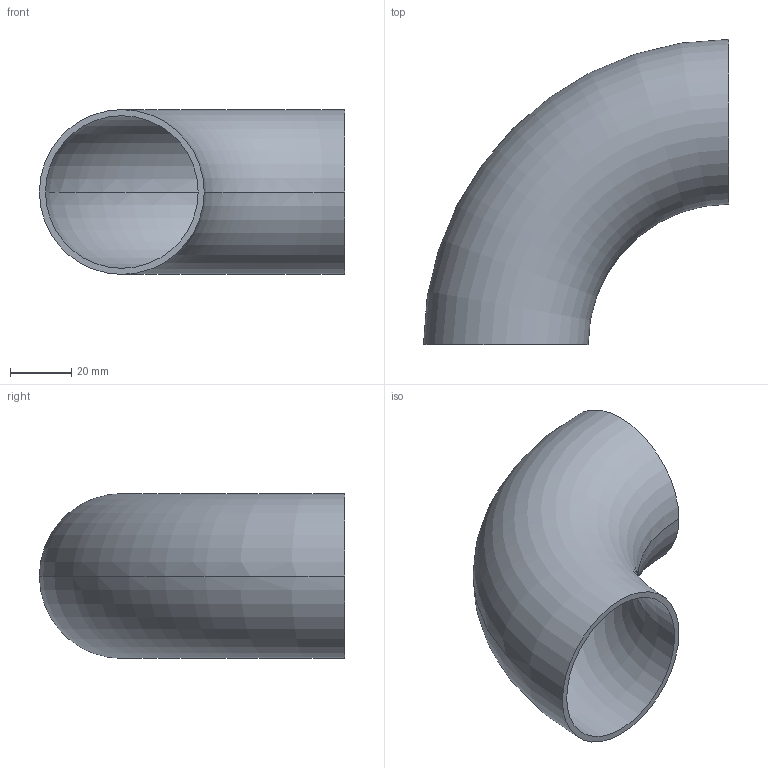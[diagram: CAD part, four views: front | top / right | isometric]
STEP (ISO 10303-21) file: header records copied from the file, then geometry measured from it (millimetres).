
FILE_DESCRIPTION (( 'STEP AP203' ), '1' );
FILE_NAME ('OT212-50-54x2_OSTP.step', '2020-12-16T02:26:56', ( '' ), ( '' ), 'SwSTEP 2.0', 'SolidWorks 2014', '' );
FILE_SCHEMA (( 'CONFIG_CONTROL_DESIGN' ));
Length unit declared in the file: millimetre
Products named in the file (1): OT212-50-54x2_OSTP
Bounding box: 100 x 100 x 54 mm (x, y, z)
Volume: 37465 mm3; surface area: 38118.5 mm2
Topology: 1 solids, 1 shells, 6 faces, 12 edges, 8 vertices
Faces by surface type: torus 4, plane 2
Entity records: 249 total; most frequent: DIRECTION 38, CARTESIAN_POINT 27, ORIENTED_EDGE 24, AXIS2_PLACEMENT_3D 19, EDGE_CURVE 12, CIRCLE 12, VERTEX_POINT 8, EDGE_LOOP 8
